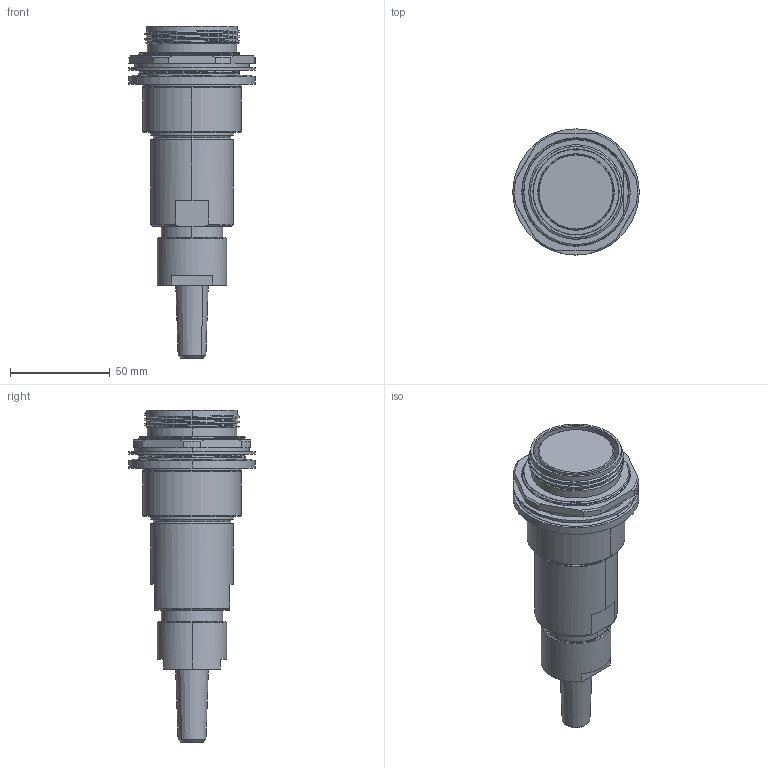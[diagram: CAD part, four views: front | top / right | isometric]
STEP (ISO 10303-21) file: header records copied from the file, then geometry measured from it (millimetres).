
FILE_DESCRIPTION (( 'STEP AP214' ), '1' );
FILE_NAME ('QLINK-RJTX-29XX-SXXX.STEP', '2025-09-30T22:12:34', ( '' ), ( '' ), 'SwSTEP 2.0', 'SolidWorks 2024', '' );
FILE_SCHEMA (( 'AUTOMOTIVE_DESIGN' ));
Length unit declared in the file: inch
Products named in the file (1): QLINK-RJTX-29XX-SXXX
Bounding box: 63.25 x 63.25 x 166.39 mm (x, y, z)
Volume: 195366.3 mm3; surface area: 41030.2 mm2
Topology: 2 solids, 2 shells, 218 faces, 555 edges, 358 vertices
Faces by surface type: cylinder 77, plane 46, cone 41, bspline 32, torus 22
Entity records: 15820 total; most frequent: CARTESIAN_POINT 10904, ORIENTED_EDGE 1110, DIRECTION 947, EDGE_CURVE 555, AXIS2_PLACEMENT_3D 396, VERTEX_POINT 358, EDGE_LOOP 243, ADVANCED_FACE 218
